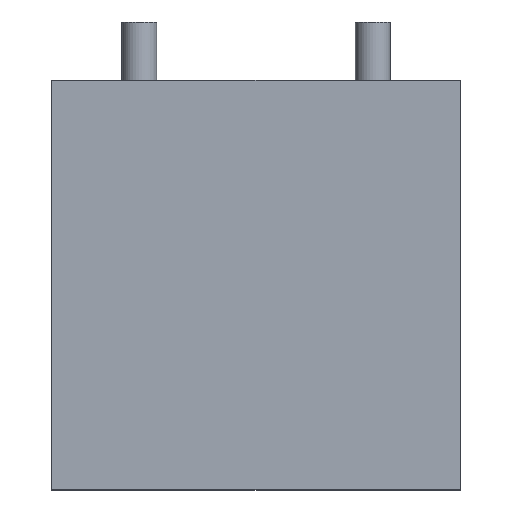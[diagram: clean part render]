
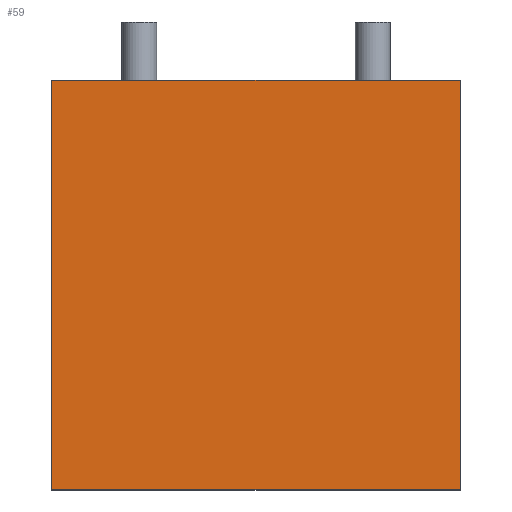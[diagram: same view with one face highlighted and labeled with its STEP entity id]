
A CAD part, top view. The second image highlights one B-rep face of the part: STEP entity #59.
In plain terms, the highlighted planar face has unit normal (0, 0, 1).
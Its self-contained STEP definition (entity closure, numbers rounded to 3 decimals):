
#59=ADVANCED_FACE('',(#132),#134,.T.);
#132=FACE_BOUND('',#133,.T.);
#133=EDGE_LOOP('',(#252,#253,#254,#255));
#134=PLANE('',#135);
#135=AXIS2_PLACEMENT_3D('',#136,#137,#138);
#136=CARTESIAN_POINT('',(0.,40.,46.));
#137=DIRECTION('',(0.,0.,1.));
#138=DIRECTION('',(0.,-1.,0.));
#252=ORIENTED_EDGE('',*,*,#311,.T.);
#253=ORIENTED_EDGE('',*,*,#315,.T.);
#254=ORIENTED_EDGE('',*,*,#316,.F.);
#255=ORIENTED_EDGE('',*,*,#296,.F.);
#296=EDGE_CURVE('',#330,#332,#333,.T.);
#311=EDGE_CURVE('',#330,#360,#362,.T.);
#315=EDGE_CURVE('',#360,#368,#369,.T.);
#316=EDGE_CURVE('',#332,#368,#370,.T.);
#330=VERTEX_POINT('',#390);
#332=VERTEX_POINT('',#394);
#333=LINE('',#395,#396);
#360=VERTEX_POINT('',#460);
#362=LINE('',#464,#465);
#368=VERTEX_POINT('',#478);
#369=LINE('',#479,#480);
#370=LINE('',#482,#483);
#390=CARTESIAN_POINT('',(0.,40.,46.));
#394=CARTESIAN_POINT('',(70.,40.,46.));
#395=CARTESIAN_POINT('',(0.,40.,46.));
#396=VECTOR('',#397,1.);
#397=DIRECTION('',(1.,0.,0.));
#460=CARTESIAN_POINT('',(0.,-30.,46.));
#464=CARTESIAN_POINT('',(0.,40.,46.));
#465=VECTOR('',#466,1.);
#466=DIRECTION('',(0.,-1.,0.));
#478=CARTESIAN_POINT('',(70.,-30.,46.));
#479=CARTESIAN_POINT('',(0.,-30.,46.));
#480=VECTOR('',#481,1.);
#481=DIRECTION('',(1.,0.,0.));
#482=CARTESIAN_POINT('',(70.,40.,46.));
#483=VECTOR('',#484,1.);
#484=DIRECTION('',(0.,-1.,0.));
